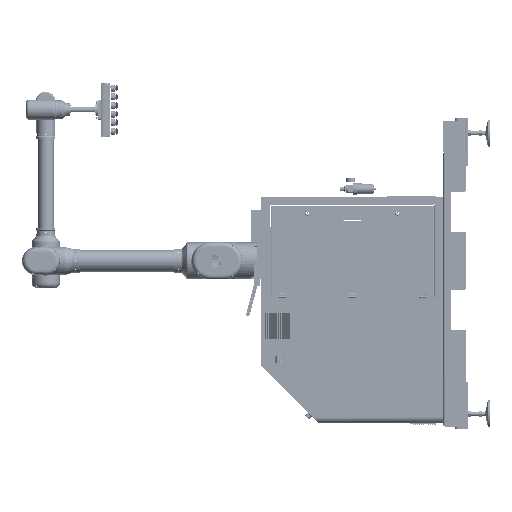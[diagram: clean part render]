
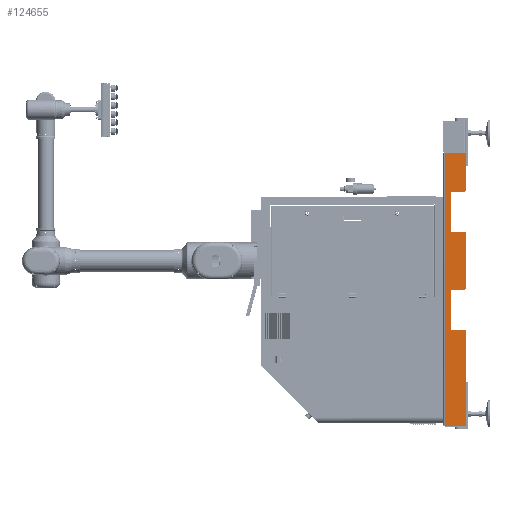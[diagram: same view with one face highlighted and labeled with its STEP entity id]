
A CAD part, left-side view. The second image highlights one B-rep face of the part: STEP entity #124655.
In plain terms, the highlighted planar face has unit normal (-1, 0, 0).
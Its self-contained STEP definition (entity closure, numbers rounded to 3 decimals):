
#2857 = CARTESIAN_POINT ( 'NONE',  ( -450., -125., 760. ) ) ;
#4756 = VERTEX_POINT ( 'NONE', #100878 ) ;
#12206 = VECTOR ( 'NONE', #252019, 1000. ) ;
#15190 = VERTEX_POINT ( 'NONE', #88008 ) ;
#16394 = EDGE_CURVE ( 'NONE', #239641, #118808, #329619, .T. ) ;
#24174 = ORIENTED_EDGE ( 'NONE', *, *, #205588, .F. ) ;
#25761 = DIRECTION ( 'NONE',  ( -1., 0., 0. ) ) ;
#26453 = CARTESIAN_POINT ( 'NONE',  ( -450., 0., 320.5 ) ) ;
#28029 = ORIENTED_EDGE ( 'NONE', *, *, #92125, .T. ) ;
#35381 = CARTESIAN_POINT ( 'NONE',  ( -450., 0., 760. ) ) ;
#36658 = DIRECTION ( 'NONE',  ( 0., -1., 0. ) ) ;
#41715 = DIRECTION ( 'NONE',  ( -1., 0., 0. ) ) ;
#45773 = VERTEX_POINT ( 'NONE', #155151 ) ;
#46016 = CARTESIAN_POINT ( 'NONE',  ( -450., -120., 5.5 ) ) ;
#46341 = DIRECTION ( 'NONE',  ( 0., 0., -1. ) ) ;
#47677 = CARTESIAN_POINT ( 'NONE',  ( -450., 0., -224.5 ) ) ;
#57194 = ORIENTED_EDGE ( 'NONE', *, *, #119277, .T. ) ;
#62132 = VECTOR ( 'NONE', #302988, 1000. ) ;
#62207 = CARTESIAN_POINT ( 'NONE',  ( -450., -45., 760. ) ) ;
#63154 = EDGE_CURVE ( 'NONE', #257478, #229906, #307281, .T. ) ;
#66421 = LINE ( 'NONE', #35381, #62132 ) ;
#67458 = CIRCLE ( 'NONE', #262540, 5. ) ;
#71208 = CARTESIAN_POINT ( 'NONE',  ( -450., -120., -229.5 ) ) ;
#74692 = PLANE ( 'NONE',  #308004 ) ;
#75317 = LINE ( 'NONE', #221812, #222075 ) ;
#75858 = CARTESIAN_POINT ( 'NONE',  ( -450., -125., 760. ) ) ;
#76743 = EDGE_CURVE ( 'NONE', #270877, #229906, #122610, .T. ) ;
#82317 = EDGE_CURVE ( 'NONE', #45773, #203145, #75317, .T. ) ;
#88008 = CARTESIAN_POINT ( 'NONE',  ( -450., -120., 320.5 ) ) ;
#91297 = LINE ( 'NONE', #75858, #278907 ) ;
#92125 = EDGE_CURVE ( 'NONE', #270877, #279688, #237499, .T. ) ;
#92456 = VECTOR ( 'NONE', #183655, 1000. ) ;
#96442 = DIRECTION ( 'NONE',  ( 0., 0., -1. ) ) ;
#98011 = LINE ( 'NONE', #117674, #12206 ) ;
#99552 = DIRECTION ( 'NONE',  ( 0., 0., -1. ) ) ;
#100657 = VECTOR ( 'NONE', #300218, 1000. ) ;
#100703 = FACE_OUTER_BOUND ( 'NONE', #197512, .T. ) ;
#100878 = CARTESIAN_POINT ( 'NONE',  ( -450., -10., 760. ) ) ;
#101729 = LINE ( 'NONE', #47677, #334206 ) ;
#104309 = DIRECTION ( 'NONE',  ( 0., 0., -1. ) ) ;
#105128 = ORIENTED_EDGE ( 'NONE', *, *, #16394, .F. ) ;
#109872 = DIRECTION ( 'NONE',  ( 0., 0., -1. ) ) ;
#115772 = EDGE_CURVE ( 'NONE', #4756, #274129, #98011, .T. ) ;
#117674 = CARTESIAN_POINT ( 'NONE',  ( -450., -10., 760. ) ) ;
#118680 = ORIENTED_EDGE ( 'NONE', *, *, #315091, .F. ) ;
#118808 = VERTEX_POINT ( 'NONE', #167134 ) ;
#119156 = DIRECTION ( 'NONE',  ( 0., 0., -1. ) ) ;
#119277 = EDGE_CURVE ( 'NONE', #274129, #244351, #333575, .T. ) ;
#121889 = CARTESIAN_POINT ( 'NONE',  ( -450., -45., 320.5 ) ) ;
#122610 = LINE ( 'NONE', #141371, #305989 ) ;
#124655 = ADVANCED_FACE ( 'NONE', ( #100703 ), #74692, .F. ) ;
#130577 = CIRCLE ( 'NONE', #186744, 5. ) ;
#130918 = AXIS2_PLACEMENT_3D ( 'NONE', #46016, #280679, #99552 ) ;
#135209 = ORIENTED_EDGE ( 'NONE', *, *, #115772, .T. ) ;
#140746 = ORIENTED_EDGE ( 'NONE', *, *, #176217, .F. ) ;
#141371 = CARTESIAN_POINT ( 'NONE',  ( -450., 0., 0.5 ) ) ;
#148265 = EDGE_CURVE ( 'NONE', #316281, #203437, #67458, .T. ) ;
#148410 = VECTOR ( 'NONE', #171090, 1000. ) ;
#150967 = CARTESIAN_POINT ( 'NONE',  ( -450., 0., 760. ) ) ;
#151380 = EDGE_CURVE ( 'NONE', #118808, #331451, #324876, .T. ) ;
#153611 = CARTESIAN_POINT ( 'NONE',  ( -450., -10., -754.929 ) ) ;
#155151 = CARTESIAN_POINT ( 'NONE',  ( -450., -125., 760. ) ) ;
#161601 = LINE ( 'NONE', #26453, #92456 ) ;
#162850 = CARTESIAN_POINT ( 'NONE',  ( -450., 0., 545.5 ) ) ;
#164191 = ORIENTED_EDGE ( 'NONE', *, *, #63154, .T. ) ;
#165087 = DIRECTION ( 'NONE',  ( 0., 1., 0. ) ) ;
#165766 = ORIENTED_EDGE ( 'NONE', *, *, #170069, .T. ) ;
#166422 = DIRECTION ( 'NONE',  ( 0., 1., 0. ) ) ;
#167134 = CARTESIAN_POINT ( 'NONE',  ( -450., -45., 545.5 ) ) ;
#170069 = EDGE_CURVE ( 'NONE', #239641, #203145, #323936, .T. ) ;
#171090 = DIRECTION ( 'NONE',  ( 0., 0., 1. ) ) ;
#176217 = EDGE_CURVE ( 'NONE', #257478, #203437, #101729, .T. ) ;
#179256 = ORIENTED_EDGE ( 'NONE', *, *, #257874, .F. ) ;
#180728 = CARTESIAN_POINT ( 'NONE',  ( -450., -120., 550.5 ) ) ;
#181595 = ORIENTED_EDGE ( 'NONE', *, *, #269053, .T. ) ;
#183655 = DIRECTION ( 'NONE',  ( 0., -1., 0. ) ) ;
#186744 = AXIS2_PLACEMENT_3D ( 'NONE', #214602, #215706, #109872 ) ;
#196287 = CARTESIAN_POINT ( 'NONE',  ( -450., -125., 315.5 ) ) ;
#197512 = EDGE_LOOP ( 'NONE', ( #24174, #295669, #140746, #164191, #330456, #28029, #118680, #181595, #179256, #313613, #105128, #165766, #233606, #301066, #135209, #57194 ) ) ;
#203145 = VERTEX_POINT ( 'NONE', #286622 ) ;
#203437 = VERTEX_POINT ( 'NONE', #277337 ) ;
#205588 = EDGE_CURVE ( 'NONE', #316281, #244351, #264116, .T. ) ;
#214602 = CARTESIAN_POINT ( 'NONE',  ( -450., -120., 315.5 ) ) ;
#215706 = DIRECTION ( 'NONE',  ( -1., 0., 0. ) ) ;
#219209 = CARTESIAN_POINT ( 'NONE',  ( -450., -45., -224.5 ) ) ;
#221253 = CARTESIAN_POINT ( 'NONE',  ( -450., -45., 760. ) ) ;
#221812 = CARTESIAN_POINT ( 'NONE',  ( -450., -125., 760. ) ) ;
#222075 = VECTOR ( 'NONE', #46341, 1000. ) ;
#227501 = VECTOR ( 'NONE', #36658, 1000. ) ;
#229906 = VERTEX_POINT ( 'NONE', #258518 ) ;
#229935 = DIRECTION ( 'NONE',  ( 0., -1., 0. ) ) ;
#233606 = ORIENTED_EDGE ( 'NONE', *, *, #82317, .F. ) ;
#237499 = CIRCLE ( 'NONE', #130918, 5. ) ;
#239641 = VERTEX_POINT ( 'NONE', #294062 ) ;
#244351 = VERTEX_POINT ( 'NONE', #247971 ) ;
#247971 = CARTESIAN_POINT ( 'NONE',  ( -450., -125., -754.929 ) ) ;
#252019 = DIRECTION ( 'NONE',  ( 0., 0., -1. ) ) ;
#257478 = VERTEX_POINT ( 'NONE', #219209 ) ;
#257874 = EDGE_CURVE ( 'NONE', #331451, #15190, #161601, .T. ) ;
#258518 = CARTESIAN_POINT ( 'NONE',  ( -450., -45., 0.5 ) ) ;
#262540 = AXIS2_PLACEMENT_3D ( 'NONE', #71208, #41715, #119156 ) ;
#264116 = LINE ( 'NONE', #2857, #325224 ) ;
#269053 = EDGE_CURVE ( 'NONE', #323775, #15190, #130577, .T. ) ;
#270877 = VERTEX_POINT ( 'NONE', #331925 ) ;
#274013 = EDGE_CURVE ( 'NONE', #4756, #45773, #66421, .T. ) ;
#274129 = VERTEX_POINT ( 'NONE', #153611 ) ;
#277337 = CARTESIAN_POINT ( 'NONE',  ( -450., -120., -224.5 ) ) ;
#278907 = VECTOR ( 'NONE', #104309, 1000. ) ;
#279688 = VERTEX_POINT ( 'NONE', #302409 ) ;
#280679 = DIRECTION ( 'NONE',  ( -1., 0., 0. ) ) ;
#286622 = CARTESIAN_POINT ( 'NONE',  ( -450., -125., 550.5 ) ) ;
#288644 = VECTOR ( 'NONE', #165087, 1000. ) ;
#293256 = DIRECTION ( 'NONE',  ( 0., 0., -1. ) ) ;
#294062 = CARTESIAN_POINT ( 'NONE',  ( -450., -120., 545.5 ) ) ;
#295669 = ORIENTED_EDGE ( 'NONE', *, *, #148265, .T. ) ;
#300218 = DIRECTION ( 'NONE',  ( 0., 0., -1. ) ) ;
#301066 = ORIENTED_EDGE ( 'NONE', *, *, #274013, .F. ) ;
#302409 = CARTESIAN_POINT ( 'NONE',  ( -450., -125., 5.5 ) ) ;
#302988 = DIRECTION ( 'NONE',  ( 0., -1., 0. ) ) ;
#305989 = VECTOR ( 'NONE', #166422, 1000. ) ;
#307252 = DIRECTION ( 'NONE',  ( 0., 0., -1. ) ) ;
#307281 = LINE ( 'NONE', #221253, #148410 ) ;
#308004 = AXIS2_PLACEMENT_3D ( 'NONE', #150967, #333363, #96442 ) ;
#313613 = ORIENTED_EDGE ( 'NONE', *, *, #151380, .F. ) ;
#315091 = EDGE_CURVE ( 'NONE', #323775, #279688, #91297, .T. ) ;
#315241 = AXIS2_PLACEMENT_3D ( 'NONE', #180728, #25761, #307252 ) ;
#316281 = VERTEX_POINT ( 'NONE', #323323 ) ;
#323323 = CARTESIAN_POINT ( 'NONE',  ( -450., -125., -229.5 ) ) ;
#323665 = CARTESIAN_POINT ( 'NONE',  ( -450., 1514.344, -754.929 ) ) ;
#323775 = VERTEX_POINT ( 'NONE', #196287 ) ;
#323936 = CIRCLE ( 'NONE', #315241, 5. ) ;
#324876 = LINE ( 'NONE', #62207, #100657 ) ;
#325224 = VECTOR ( 'NONE', #293256, 1000. ) ;
#329619 = LINE ( 'NONE', #162850, #288644 ) ;
#330456 = ORIENTED_EDGE ( 'NONE', *, *, #76743, .F. ) ;
#331451 = VERTEX_POINT ( 'NONE', #121889 ) ;
#331925 = CARTESIAN_POINT ( 'NONE',  ( -450., -120., 0.5 ) ) ;
#333363 = DIRECTION ( 'NONE',  ( 1., 0., 0. ) ) ;
#333575 = LINE ( 'NONE', #323665, #227501 ) ;
#334206 = VECTOR ( 'NONE', #229935, 1000. ) ;
